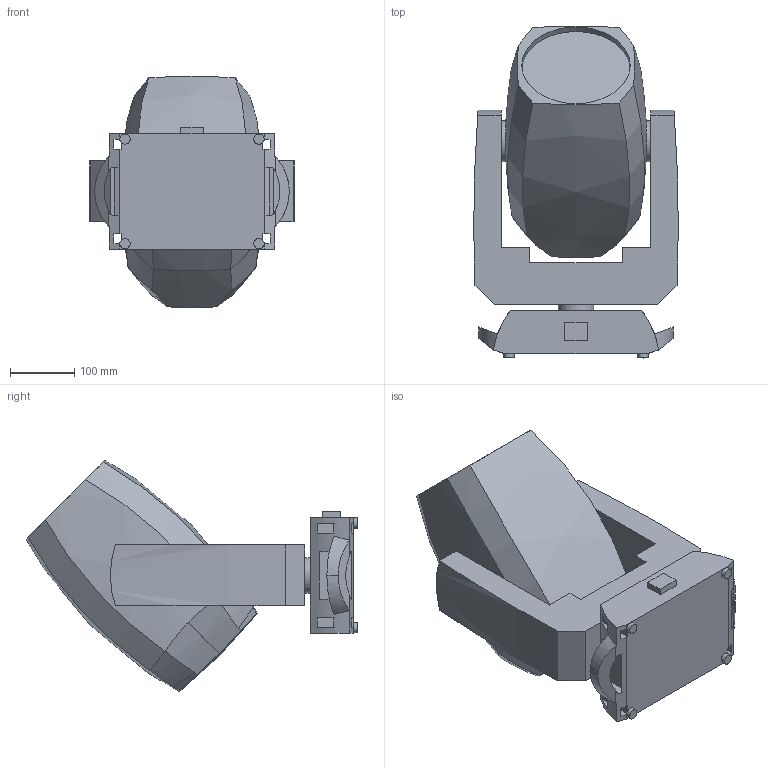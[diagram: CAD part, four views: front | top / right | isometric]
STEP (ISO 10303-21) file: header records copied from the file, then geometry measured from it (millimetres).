
FILE_DESCRIPTION(/* description */ (''),/* implementation_level */ '2;1');
FILE_NAME(/* name */ 'C:\Users\dgooch\Documents\!!CADENG\PRO\ROGUE Outcast 1L Beam\CAD Blocks\Rogue Outcast 1LBeam_45.stp',/* time_stamp */ '2022-06-07T15:44:53-04:00',/* author */ ('dgooch'),/* organization */ (''),/* preprocessor_version */ 'ST-DEVELOPER v19',/* originating_system */ 'Autodesk Inventor 2023',/* authorisation */ '');
FILE_SCHEMA (('AUTOMOTIVE_DESIGN { 1 0 10303 214 3 1 1 }'));
Length unit declared in the file: millimetre
Products named in the file (4): Rogue Outcast 1LBeam; Base; Arm; Head
Assembly tree (3 placements, depth 2):
  Rogue Outcast 1LBeam
    Base
    Arm
    Head
Bounding box: 318.98 x 517.48 x 360.88 mm (x, y, z)
Volume: 19687578.6 mm3; surface area: 720124.3 mm2
Topology: 3 solids, 3 shells, 116 faces, 318 edges, 208 vertices
Faces by surface type: plane 69, cylinder 25, bspline 12, sphere 6, cone 4
Full cylindrical faces by diameter (mm): 16 x4, 55 x2, 64 x4, 169.189 x1
Entity records: 5532 total; most frequent: CARTESIAN_POINT 2466, ORIENTED_EDGE 636, DIRECTION 571, EDGE_CURVE 318, VERTEX_POINT 208, AXIS2_PLACEMENT_3D 200, LINE 171, VECTOR 171
